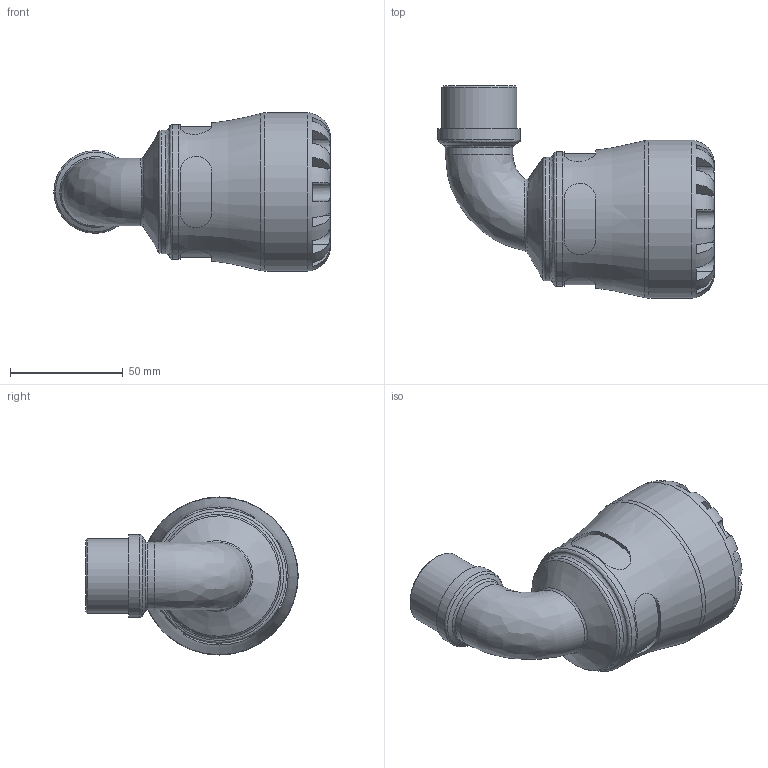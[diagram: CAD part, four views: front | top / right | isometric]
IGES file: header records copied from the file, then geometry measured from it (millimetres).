
Global section: file name: 107700040010_197700040010.ipt; native system: Autodesk Inventor 2015; preprocessor: unknown; author: KIM; date: 20170122.115500; units: millimetre
Bounding box: 122.29 x 94 x 70 mm (x, y, z)
Volume: 182618.7 mm3; surface area: 44475 mm2
Topology: 1 solids, 1 shells, 112 faces, 288 edges, 183 vertices
Faces by surface type: plane 60, revolution 28, cylinder 18, bspline 4, cone 2
Full cylindrical faces by diameter (mm): 29.924 x1, 33.249 x1, 36.574 x1, 54.6 x1, 59.5 x1, 70 x1
